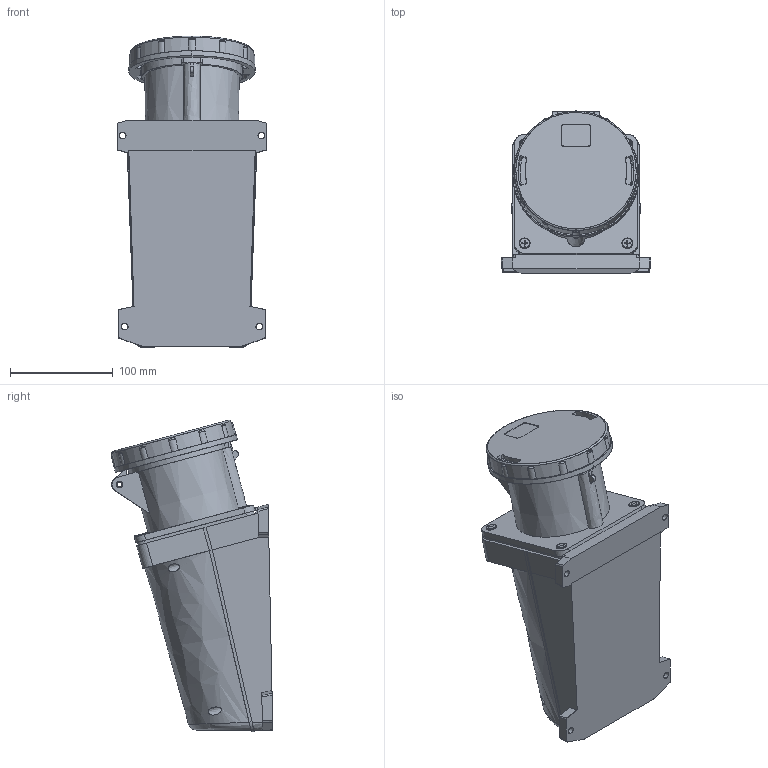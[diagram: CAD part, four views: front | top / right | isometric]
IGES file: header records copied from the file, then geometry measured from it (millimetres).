
Start section: SolidWorks IGES file using analytic representation for surfaces
Global section: file name: D:\X - Arquivos\PROEX\Empresas\P11 - METALTEX\01 - Produtos\IGES\5ª remessa\2ª etapa\TLS125653.IGS; native system: SolidWorks 2012; preprocessor: SolidWorks 2012; author: Usuario; date: 180810.165331; units: millimetre
Bounding box: 146 x 157.35 x 303.55 mm (x, y, z)
Surface area: 201041.7 mm2 (no closed solid volume)
Topology: 0 solids, 0 shells, 494 faces, 5912 edges, 5912 vertices
Faces by surface type: bspline 380, revolution 114
